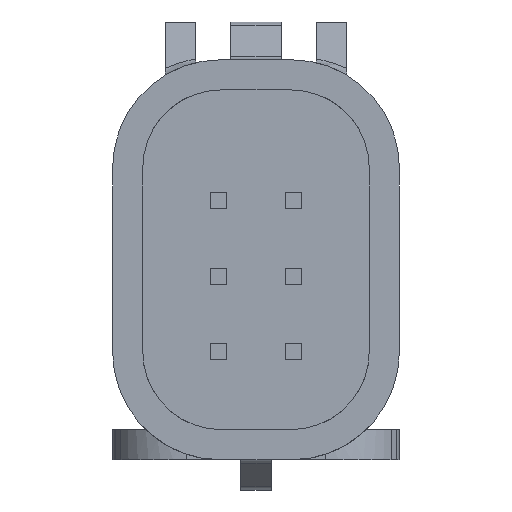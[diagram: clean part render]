
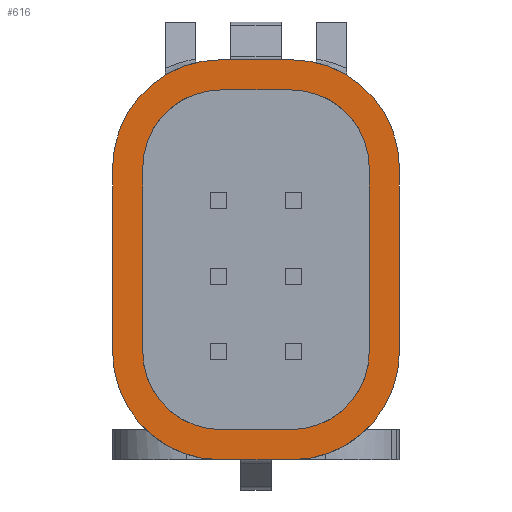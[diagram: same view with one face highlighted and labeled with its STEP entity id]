
A CAD part, left-side view. The second image highlights one B-rep face of the part: STEP entity #616.
In plain terms, the highlighted planar face has unit normal (-1, 0, 0).
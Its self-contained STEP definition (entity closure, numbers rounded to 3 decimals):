
#297=CARTESIAN_POINT('Vertex',(-17.3,0.1,-10.3)) ;
#300=CARTESIAN_POINT('Line Origine',(-17.3,1.5,-10.3)) ;
#304=CARTESIAN_POINT('Vertex',(-17.3,2.9,-10.3)) ;
#440=CARTESIAN_POINT('Axis2P3D Location',(-17.3,2.9,-6.)) ;
#444=CARTESIAN_POINT('Vertex',(-17.3,7.2,-6.)) ;
#495=CARTESIAN_POINT('Axis2P3D Location',(-17.3,0.,0.)) ;
#500=CARTESIAN_POINT('Axis2P3D Location',(-17.3,2.9,1.3)) ;
#504=CARTESIAN_POINT('Vertex',(-17.3,7.2,1.3)) ;
#506=CARTESIAN_POINT('Vertex',(-17.3,2.9,5.6)) ;
#509=CARTESIAN_POINT('Line Origine',(-17.3,7.2,-2.35)) ;
#514=CARTESIAN_POINT('Axis2P3D Location',(-17.3,0.1,-6.)) ;
#518=CARTESIAN_POINT('Vertex',(-17.3,-4.2,-6.)) ;
#521=CARTESIAN_POINT('Line Origine',(-17.3,-4.2,-2.35)) ;
#525=CARTESIAN_POINT('Vertex',(-17.3,-4.2,1.3)) ;
#528=CARTESIAN_POINT('Axis2P3D Location',(-17.3,0.1,1.3)) ;
#532=CARTESIAN_POINT('Vertex',(-17.3,0.1,5.6)) ;
#535=CARTESIAN_POINT('Line Origine',(-17.3,1.5,5.6)) ;
#550=CARTESIAN_POINT('Line Origine',(-17.3,1.5,4.4)) ;
#554=CARTESIAN_POINT('Vertex',(-17.3,2.9,4.4)) ;
#556=CARTESIAN_POINT('Vertex',(-17.3,0.1,4.4)) ;
#559=CARTESIAN_POINT('Axis2P3D Location',(-17.3,0.1,1.3)) ;
#563=CARTESIAN_POINT('Vertex',(-17.3,-3.,1.3)) ;
#566=CARTESIAN_POINT('Line Origine',(-17.3,-3.,-2.35)) ;
#570=CARTESIAN_POINT('Vertex',(-17.3,-3.,-6.)) ;
#573=CARTESIAN_POINT('Axis2P3D Location',(-17.3,0.1,-6.)) ;
#577=CARTESIAN_POINT('Vertex',(-17.3,0.1,-9.1)) ;
#580=CARTESIAN_POINT('Line Origine',(-17.3,1.5,-9.1)) ;
#584=CARTESIAN_POINT('Vertex',(-17.3,2.9,-9.1)) ;
#587=CARTESIAN_POINT('Axis2P3D Location',(-17.3,2.9,-6.)) ;
#591=CARTESIAN_POINT('Vertex',(-17.3,6.,-6.)) ;
#594=CARTESIAN_POINT('Line Origine',(-17.3,6.,-2.35)) ;
#598=CARTESIAN_POINT('Vertex',(-17.3,6.,1.3)) ;
#601=CARTESIAN_POINT('Axis2P3D Location',(-17.3,2.9,1.3)) ;
#301=DIRECTION('Vector Direction',(0.,1.,0.)) ;
#441=DIRECTION('Axis2P3D Direction',(1.,0.,0.)) ;
#496=DIRECTION('Axis2P3D Direction',(1.,0.,0.)) ;
#497=DIRECTION('Axis2P3D XDirection',(0.,1.,0.)) ;
#501=DIRECTION('Axis2P3D Direction',(1.,0.,0.)) ;
#510=DIRECTION('Vector Direction',(0.,0.,-1.)) ;
#515=DIRECTION('Axis2P3D Direction',(1.,0.,0.)) ;
#522=DIRECTION('Vector Direction',(0.,0.,1.)) ;
#529=DIRECTION('Axis2P3D Direction',(1.,0.,0.)) ;
#536=DIRECTION('Vector Direction',(0.,1.,0.)) ;
#551=DIRECTION('Vector Direction',(0.,1.,0.)) ;
#560=DIRECTION('Axis2P3D Direction',(1.,0.,0.)) ;
#567=DIRECTION('Vector Direction',(0.,0.,1.)) ;
#574=DIRECTION('Axis2P3D Direction',(1.,0.,0.)) ;
#581=DIRECTION('Vector Direction',(0.,1.,0.)) ;
#588=DIRECTION('Axis2P3D Direction',(1.,0.,0.)) ;
#595=DIRECTION('Vector Direction',(0.,0.,-1.)) ;
#602=DIRECTION('Axis2P3D Direction',(1.,0.,0.)) ;
#442=AXIS2_PLACEMENT_3D('Circle Axis2P3D',#440,#441,$) ;
#498=AXIS2_PLACEMENT_3D('Plane Axis2P3D',#495,#496,#497) ;
#502=AXIS2_PLACEMENT_3D('Circle Axis2P3D',#500,#501,$) ;
#516=AXIS2_PLACEMENT_3D('Circle Axis2P3D',#514,#515,$) ;
#530=AXIS2_PLACEMENT_3D('Circle Axis2P3D',#528,#529,$) ;
#561=AXIS2_PLACEMENT_3D('Circle Axis2P3D',#559,#560,$) ;
#575=AXIS2_PLACEMENT_3D('Circle Axis2P3D',#573,#574,$) ;
#589=AXIS2_PLACEMENT_3D('Circle Axis2P3D',#587,#588,$) ;
#603=AXIS2_PLACEMENT_3D('Circle Axis2P3D',#601,#602,$) ;
#541=ORIENTED_EDGE('',*,*,#508,.F.) ;
#542=ORIENTED_EDGE('',*,*,#513,.F.) ;
#543=ORIENTED_EDGE('',*,*,#446,.F.) ;
#544=ORIENTED_EDGE('',*,*,#306,.F.) ;
#545=ORIENTED_EDGE('',*,*,#520,.F.) ;
#546=ORIENTED_EDGE('',*,*,#527,.F.) ;
#547=ORIENTED_EDGE('',*,*,#534,.F.) ;
#548=ORIENTED_EDGE('',*,*,#539,.F.) ;
#607=ORIENTED_EDGE('',*,*,#558,.T.) ;
#608=ORIENTED_EDGE('',*,*,#565,.T.) ;
#609=ORIENTED_EDGE('',*,*,#572,.T.) ;
#610=ORIENTED_EDGE('',*,*,#579,.T.) ;
#611=ORIENTED_EDGE('',*,*,#586,.T.) ;
#612=ORIENTED_EDGE('',*,*,#593,.T.) ;
#613=ORIENTED_EDGE('',*,*,#600,.T.) ;
#614=ORIENTED_EDGE('',*,*,#605,.T.) ;
#615=FACE_BOUND('',#606,.T.) ;
#302=VECTOR('Line Direction',#301,1.) ;
#511=VECTOR('Line Direction',#510,1.) ;
#523=VECTOR('Line Direction',#522,1.) ;
#537=VECTOR('Line Direction',#536,1.) ;
#552=VECTOR('Line Direction',#551,1.) ;
#568=VECTOR('Line Direction',#567,1.) ;
#582=VECTOR('Line Direction',#581,1.) ;
#596=VECTOR('Line Direction',#595,1.) ;
#616=ADVANCED_FACE('\X2\FF8AFF9FFF70FF82\X0\ \X2\FF8EFF9EFF83FF9EFF68FF70\X0\',(#549,#615),#499,.F.) ;
#443=CIRCLE('generated circle',#442,4.3) ;
#503=CIRCLE('generated circle',#502,4.3) ;
#517=CIRCLE('generated circle',#516,4.3) ;
#531=CIRCLE('generated circle',#530,4.3) ;
#562=CIRCLE('generated circle',#561,3.1) ;
#576=CIRCLE('generated circle',#575,3.1) ;
#590=CIRCLE('generated circle',#589,3.1) ;
#604=CIRCLE('generated circle',#603,3.1) ;
#306=EDGE_CURVE('',#298,#305,#303,.T.) ;
#446=EDGE_CURVE('',#305,#445,#443,.T.) ;
#508=EDGE_CURVE('',#505,#507,#503,.T.) ;
#513=EDGE_CURVE('',#445,#505,#512,.F.) ;
#520=EDGE_CURVE('',#519,#298,#517,.T.) ;
#527=EDGE_CURVE('',#526,#519,#524,.F.) ;
#534=EDGE_CURVE('',#533,#526,#531,.T.) ;
#539=EDGE_CURVE('',#507,#533,#538,.F.) ;
#558=EDGE_CURVE('',#555,#557,#553,.F.) ;
#565=EDGE_CURVE('',#557,#564,#562,.T.) ;
#572=EDGE_CURVE('',#564,#571,#569,.F.) ;
#579=EDGE_CURVE('',#571,#578,#576,.T.) ;
#586=EDGE_CURVE('',#578,#585,#583,.T.) ;
#593=EDGE_CURVE('',#585,#592,#590,.T.) ;
#600=EDGE_CURVE('',#592,#599,#597,.F.) ;
#605=EDGE_CURVE('',#599,#555,#604,.T.) ;
#540=EDGE_LOOP('',(#541,#542,#543,#544,#545,#546,#547,#548)) ;
#606=EDGE_LOOP('',(#607,#608,#609,#610,#611,#612,#613,#614)) ;
#549=FACE_OUTER_BOUND('',#540,.T.) ;
#303=LINE('Line',#300,#302) ;
#512=LINE('Line',#509,#511) ;
#524=LINE('Line',#521,#523) ;
#538=LINE('Line',#535,#537) ;
#553=LINE('Line',#550,#552) ;
#569=LINE('Line',#566,#568) ;
#583=LINE('Line',#580,#582) ;
#597=LINE('Line',#594,#596) ;
#499=PLANE('',#498) ;
#298=VERTEX_POINT('',#297) ;
#305=VERTEX_POINT('',#304) ;
#445=VERTEX_POINT('',#444) ;
#505=VERTEX_POINT('',#504) ;
#507=VERTEX_POINT('',#506) ;
#519=VERTEX_POINT('',#518) ;
#526=VERTEX_POINT('',#525) ;
#533=VERTEX_POINT('',#532) ;
#555=VERTEX_POINT('',#554) ;
#557=VERTEX_POINT('',#556) ;
#564=VERTEX_POINT('',#563) ;
#571=VERTEX_POINT('',#570) ;
#578=VERTEX_POINT('',#577) ;
#585=VERTEX_POINT('',#584) ;
#592=VERTEX_POINT('',#591) ;
#599=VERTEX_POINT('',#598) ;
